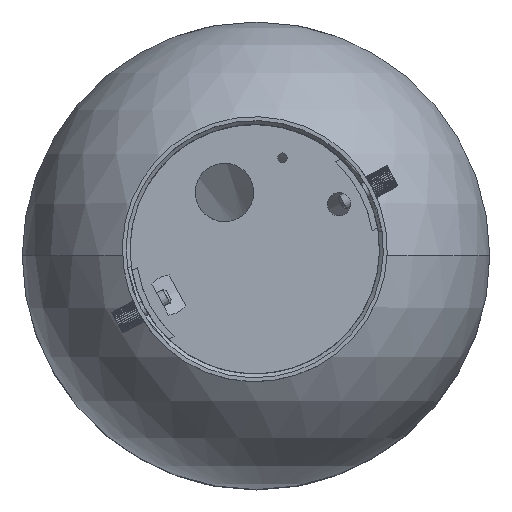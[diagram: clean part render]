
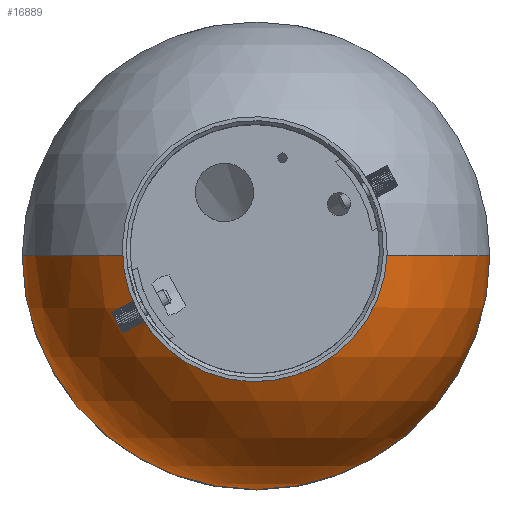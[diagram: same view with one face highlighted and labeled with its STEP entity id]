
A CAD part, top view. The second image highlights one B-rep face of the part: STEP entity #16889.
In plain terms, the highlighted spherical face has radius 60 mm.
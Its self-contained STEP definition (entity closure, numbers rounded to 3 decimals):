
#313 = VERTEX_POINT ( 'NONE', #6624 ) ;
#348 = DIRECTION ( 'NONE',  ( 0., -1., 0. ) ) ;
#447 = CARTESIAN_POINT ( 'NONE',  ( 0., 0., 105.112 ) ) ;
#602 = SPHERICAL_SURFACE ( 'NONE', #17245, 60. ) ;
#822 = CARTESIAN_POINT ( 'NONE',  ( -23.579, 0., 160.285 ) ) ;
#1068 = AXIS2_PLACEMENT_3D ( 'NONE', #10714, #16995, #12020 ) ;
#1757 = CIRCLE ( 'NONE', #10118, 60. ) ;
#3198 = CIRCLE ( 'NONE', #14475, 60. ) ;
#3233 = CARTESIAN_POINT ( 'NONE',  ( 0., 0., 105.112 ) ) ;
#3558 = DIRECTION ( 'NONE',  ( 0., 0., -1. ) ) ;
#3856 = CARTESIAN_POINT ( 'NONE',  ( 60., 0., 105.112 ) ) ;
#4401 = CIRCLE ( 'NONE', #14093, 60. ) ;
#4405 = EDGE_CURVE ( 'NONE', #13344, #13172, #7173, .T. ) ;
#4824 = DIRECTION ( 'NONE',  ( 0., 0., -1. ) ) ;
#5128 = DIRECTION ( 'NONE',  ( 0., -1., 0. ) ) ;
#6624 = CARTESIAN_POINT ( 'NONE',  ( -60., 0., 105.112 ) ) ;
#7026 = ORIENTED_EDGE ( 'NONE', *, *, #12990, .T. ) ;
#7173 = CIRCLE ( 'NONE', #1068, 23.579 ) ;
#7662 = EDGE_CURVE ( 'NONE', #313, #13172, #4401, .T. ) ;
#8168 = DIRECTION ( 'NONE',  ( 0., 0., 1. ) ) ;
#9232 = EDGE_LOOP ( 'NONE', ( #14753, #7026, #11647, #19689 ) ) ;
#10118 = AXIS2_PLACEMENT_3D ( 'NONE', #447, #348, #3558 ) ;
#10714 = CARTESIAN_POINT ( 'NONE',  ( 0., 0., 160.285 ) ) ;
#10994 = DIRECTION ( 'NONE',  ( 1., 0., 0. ) ) ;
#11106 = DIRECTION ( 'NONE',  ( 0., 1., 0. ) ) ;
#11152 = EDGE_CURVE ( 'NONE', #19004, #313, #3198, .T. ) ;
#11295 = DIRECTION ( 'NONE',  ( -1., 0., 0. ) ) ;
#11647 = ORIENTED_EDGE ( 'NONE', *, *, #4405, .T. ) ;
#12020 = DIRECTION ( 'NONE',  ( -1., 0., 0. ) ) ;
#12524 = CARTESIAN_POINT ( 'NONE',  ( 0., 0., 105.112 ) ) ;
#12916 = CARTESIAN_POINT ( 'NONE',  ( 0., 0., 105.112 ) ) ;
#12990 = EDGE_CURVE ( 'NONE', #19004, #13344, #1757, .T. ) ;
#13172 = VERTEX_POINT ( 'NONE', #822 ) ;
#13344 = VERTEX_POINT ( 'NONE', #19812 ) ;
#14093 = AXIS2_PLACEMENT_3D ( 'NONE', #3233, #11106, #8168 ) ;
#14434 = FACE_OUTER_BOUND ( 'NONE', #9232, .T. ) ;
#14475 = AXIS2_PLACEMENT_3D ( 'NONE', #12524, #4824, #10994 ) ;
#14753 = ORIENTED_EDGE ( 'NONE', *, *, #11152, .F. ) ;
#16889 = ADVANCED_FACE ( 'NONE', ( #14434 ), #602, .T. ) ;
#16995 = DIRECTION ( 'NONE',  ( 0., 0., -1. ) ) ;
#17245 = AXIS2_PLACEMENT_3D ( 'NONE', #12916, #5128, #11295 ) ;
#19004 = VERTEX_POINT ( 'NONE', #3856 ) ;
#19689 = ORIENTED_EDGE ( 'NONE', *, *, #7662, .F. ) ;
#19812 = CARTESIAN_POINT ( 'NONE',  ( 23.579, 0., 160.285 ) ) ;
